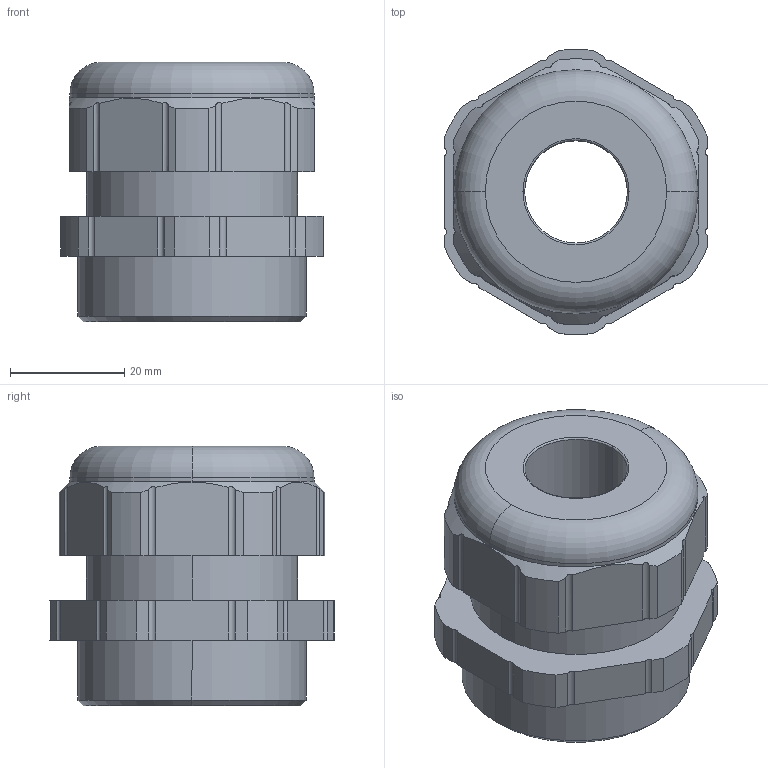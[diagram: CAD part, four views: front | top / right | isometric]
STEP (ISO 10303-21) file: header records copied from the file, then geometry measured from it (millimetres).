
FILE_DESCRIPTION (( 'STEP AP203' ), '1' );
FILE_NAME ('18M401418 T.STEP', '2006-08-18T09:22:03', ( ' ' ), ( '' ), 'SwSTEP 2.0', 'SolidWorks 2005278', '' );
FILE_SCHEMA (( 'CONFIG_CONTROL_DESIGN' ));
Length unit declared in the file: millimetre
Products named in the file (1): 18M401418 T
Bounding box: 46 x 49.96 x 45.5 mm (x, y, z)
Volume: 52246.7 mm3; surface area: 12338.4 mm2
Topology: 1 solids, 1 shells, 132 faces, 364 edges, 240 vertices
Faces by surface type: plane 78, cylinder 46, cone 4, torus 4
Entity records: 4423 total; most frequent: CARTESIAN_POINT 949, ORIENTED_EDGE 728, DIRECTION 688, EDGE_CURVE 364, LINE 242, VECTOR 242, VERTEX_POINT 240, AXIS2_PLACEMENT_3D 223
